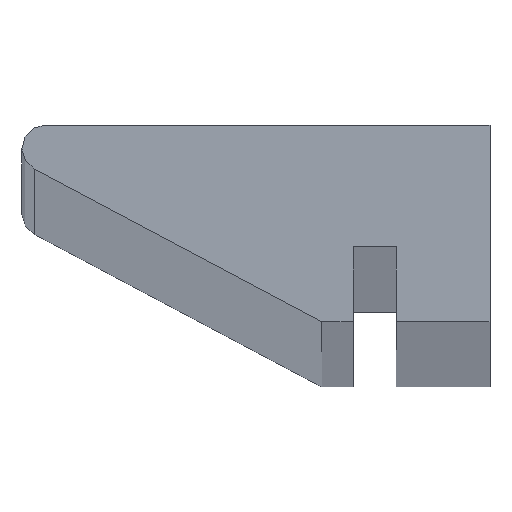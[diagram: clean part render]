
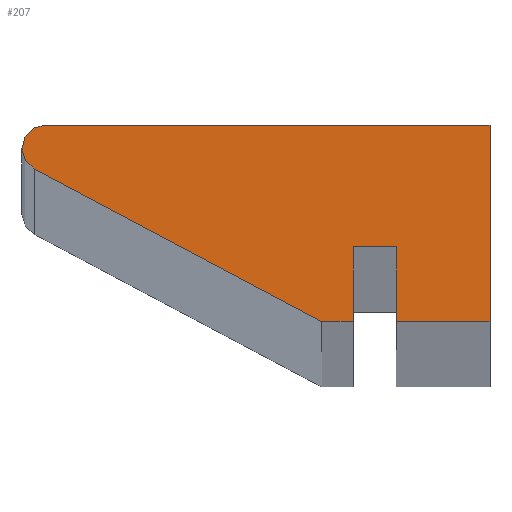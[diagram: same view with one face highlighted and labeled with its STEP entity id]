
A CAD part, top view. The second image highlights one B-rep face of the part: STEP entity #207.
In plain terms, the highlighted planar face has unit normal (0, 0, 1).
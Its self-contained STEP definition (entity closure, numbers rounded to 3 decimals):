
#5 = VECTOR ( 'NONE', #176, 1000. ) ;
#8 = ORIENTED_EDGE ( 'NONE', *, *, #260, .T. ) ;
#16 = LINE ( 'NONE', #347, #337 ) ;
#19 = CARTESIAN_POINT ( 'NONE',  ( 0., 10.5, 0. ) ) ;
#23 = ORIENTED_EDGE ( 'NONE', *, *, #139, .T. ) ;
#28 = LINE ( 'NONE', #141, #134 ) ;
#55 = VECTOR ( 'NONE', #235, 1000. ) ;
#84 = DIRECTION ( 'NONE',  ( 0., 1., 0. ) ) ;
#86 = EDGE_CURVE ( 'NONE', #177, #153, #163, .T. ) ;
#87 = CARTESIAN_POINT ( 'NONE',  ( -9., 0., 0. ) ) ;
#88 = VECTOR ( 'NONE', #84, 1000. ) ;
#91 = ORIENTED_EDGE ( 'NONE', *, *, #195, .T. ) ;
#92 = FACE_OUTER_BOUND ( 'NONE', #148, .T. ) ;
#112 = DIRECTION ( 'NONE',  ( 0., 0., 1. ) ) ;
#115 = VERTEX_POINT ( 'NONE', #359 ) ;
#124 = ORIENTED_EDGE ( 'NONE', *, *, #86, .T. ) ;
#130 = DIRECTION ( 'NONE',  ( 0., -1., 0. ) ) ;
#134 = VECTOR ( 'NONE', #142, 1000. ) ;
#135 = LINE ( 'NONE', #19, #88 ) ;
#139 = EDGE_CURVE ( 'NONE', #151, #115, #135, .T. ) ;
#140 = CARTESIAN_POINT ( 'NONE',  ( -5., 4., 0. ) ) ;
#141 = CARTESIAN_POINT ( 'NONE',  ( -5., 4., 0. ) ) ;
#142 = DIRECTION ( 'NONE',  ( 1., 0., 0. ) ) ;
#146 = ORIENTED_EDGE ( 'NONE', *, *, #212, .T. ) ;
#147 = CARTESIAN_POINT ( 'NONE',  ( -7.3, 0., 0. ) ) ;
#148 = EDGE_LOOP ( 'NONE', ( #23, #288, #314, #259, #254, #8, #146, #124, #91 ) ) ;
#151 = VERTEX_POINT ( 'NONE', #251 ) ;
#153 = VERTEX_POINT ( 'NONE', #167 ) ;
#154 = CARTESIAN_POINT ( 'NONE',  ( -7.3, 4., 0. ) ) ;
#163 = LINE ( 'NONE', #164, #248 ) ;
#164 = CARTESIAN_POINT ( 'NONE',  ( -5., 0., 0. ) ) ;
#167 = CARTESIAN_POINT ( 'NONE',  ( -5., 0., 0. ) ) ;
#168 = DIRECTION ( 'NONE',  ( 0., 0., 1. ) ) ;
#171 = DIRECTION ( 'NONE',  ( 1., 0., 0. ) ) ;
#176 = DIRECTION ( 'NONE',  ( -1., 0., 0. ) ) ;
#177 = VERTEX_POINT ( 'NONE', #140 ) ;
#182 = VERTEX_POINT ( 'NONE', #87 ) ;
#195 = EDGE_CURVE ( 'NONE', #153, #151, #308, .T. ) ;
#205 = LINE ( 'NONE', #346, #368 ) ;
#207 = ADVANCED_FACE ( 'NONE', ( #92 ), #335, .T. ) ;
#209 = DIRECTION ( 'NONE',  ( 0., 1., 0. ) ) ;
#212 = EDGE_CURVE ( 'NONE', #294, #177, #28, .T. ) ;
#218 = EDGE_CURVE ( 'NONE', #273, #312, #268, .T. ) ;
#223 = CARTESIAN_POINT ( 'NONE',  ( 0., 0., 0. ) ) ;
#228 = AXIS2_PLACEMENT_3D ( 'NONE', #305, #168, #171 ) ;
#232 = VERTEX_POINT ( 'NONE', #147 ) ;
#234 = LINE ( 'NONE', #315, #5 ) ;
#235 = DIRECTION ( 'NONE',  ( 0.883, -0.469, 0. ) ) ;
#248 = VECTOR ( 'NONE', #130, 1000. ) ;
#250 = EDGE_CURVE ( 'NONE', #115, #273, #234, .T. ) ;
#251 = CARTESIAN_POINT ( 'NONE',  ( 0., 0., 0. ) ) ;
#254 = ORIENTED_EDGE ( 'NONE', *, *, #311, .T. ) ;
#258 = CARTESIAN_POINT ( 'NONE',  ( -24.337, 8.148, 0. ) ) ;
#259 = ORIENTED_EDGE ( 'NONE', *, *, #301, .T. ) ;
#260 = EDGE_CURVE ( 'NONE', #232, #294, #205, .T. ) ;
#266 = CARTESIAN_POINT ( 'NONE',  ( -23.751, 10.5, 0. ) ) ;
#268 = CIRCLE ( 'NONE', #329, 1.249 ) ;
#273 = VERTEX_POINT ( 'NONE', #266 ) ;
#281 = DIRECTION ( 'NONE',  ( 1., 0., 0. ) ) ;
#288 = ORIENTED_EDGE ( 'NONE', *, *, #250, .T. ) ;
#294 = VERTEX_POINT ( 'NONE', #154 ) ;
#301 = EDGE_CURVE ( 'NONE', #312, #182, #341, .T. ) ;
#305 = CARTESIAN_POINT ( 'NONE',  ( -23.751, 9.251, 0. ) ) ;
#307 = VECTOR ( 'NONE', #336, 1000. ) ;
#308 = LINE ( 'NONE', #223, #307 ) ;
#311 = EDGE_CURVE ( 'NONE', #182, #232, #16, .T. ) ;
#312 = VERTEX_POINT ( 'NONE', #258 ) ;
#313 = DIRECTION ( 'NONE',  ( 1., 0., 0. ) ) ;
#314 = ORIENTED_EDGE ( 'NONE', *, *, #218, .T. ) ;
#315 = CARTESIAN_POINT ( 'NONE',  ( -23.751, 10.5, 0. ) ) ;
#322 = CARTESIAN_POINT ( 'NONE',  ( -9., 0., 0. ) ) ;
#329 = AXIS2_PLACEMENT_3D ( 'NONE', #366, #112, #313 ) ;
#335 = PLANE ( 'NONE',  #228 ) ;
#336 = DIRECTION ( 'NONE',  ( 1., 0., 0. ) ) ;
#337 = VECTOR ( 'NONE', #281, 1000. ) ;
#341 = LINE ( 'NONE', #322, #55 ) ;
#346 = CARTESIAN_POINT ( 'NONE',  ( -7.3, 4., 0. ) ) ;
#347 = CARTESIAN_POINT ( 'NONE',  ( -7.3, 0., 0. ) ) ;
#359 = CARTESIAN_POINT ( 'NONE',  ( 0., 10.5, 0. ) ) ;
#366 = CARTESIAN_POINT ( 'NONE',  ( -23.751, 9.251, 0. ) ) ;
#368 = VECTOR ( 'NONE', #209, 1000. ) ;
